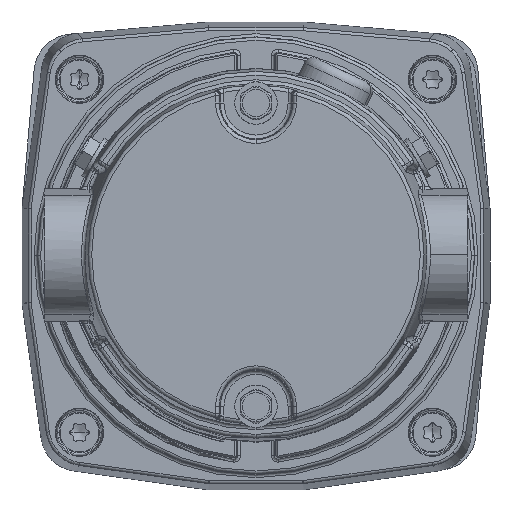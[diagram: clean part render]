
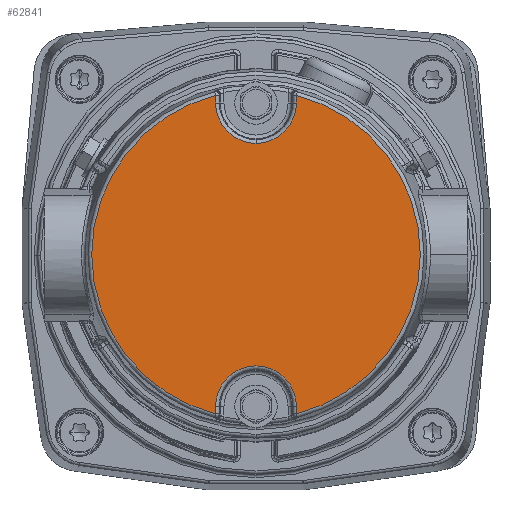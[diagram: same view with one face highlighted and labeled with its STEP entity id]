
A CAD part, top view. The second image highlights one B-rep face of the part: STEP entity #62841.
In plain terms, the highlighted planar face has unit normal (0, 0, 1).
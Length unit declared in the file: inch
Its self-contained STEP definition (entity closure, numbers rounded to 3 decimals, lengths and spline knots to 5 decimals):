
#960 = EDGE_CURVE ( 'NONE', #88735, #56618, #19225, .T. ) ;
#1129 = CARTESIAN_POINT ( 'NONE',  ( 0., 1.215, 6.257 ) ) ;
#2037 = AXIS2_PLACEMENT_3D ( 'NONE', #1129, #15676, #53978 ) ;
#2554 = DIRECTION ( 'NONE',  ( 0., 1., 0. ) ) ;
#3616 = AXIS2_PLACEMENT_3D ( 'NONE', #27208, #58142, #89183 ) ;
#8297 = VERTEX_POINT ( 'NONE', #38624 ) ;
#9191 = CARTESIAN_POINT ( 'NONE',  ( 0.32347, 0., 6.257 ) ) ;
#9256 = LINE ( 'NONE', #77105, #18909 ) ;
#10621 = ORIENTED_EDGE ( 'NONE', *, *, #960, .T. ) ;
#10993 = VERTEX_POINT ( 'NONE', #73660 ) ;
#11860 = EDGE_LOOP ( 'NONE', ( #57950, #24682, #60708, #31945, #13223, #82574, #44272, #39037, #10621 ) ) ;
#12850 = AXIS2_PLACEMENT_3D ( 'NONE', #38473, #47145, #85339 ) ;
#13223 = ORIENTED_EDGE ( 'NONE', *, *, #66605, .T. ) ;
#15217 = VERTEX_POINT ( 'NONE', #37739 ) ;
#15676 = DIRECTION ( 'NONE',  ( 0., 0., -1. ) ) ;
#16682 = VERTEX_POINT ( 'NONE', #35631 ) ;
#18909 = VECTOR ( 'NONE', #81452, 39.37008 ) ;
#19225 = CIRCLE ( 'NONE', #86895, 0.32347 ) ;
#21397 = AXIS2_PLACEMENT_3D ( 'NONE', #30420, #44538, #68517 ) ;
#24682 = ORIENTED_EDGE ( 'NONE', *, *, #62156, .T. ) ;
#26455 = LINE ( 'NONE', #69887, #62592 ) ;
#26817 = CARTESIAN_POINT ( 'NONE',  ( 0.32347, -1.215, 6.257 ) ) ;
#27208 = CARTESIAN_POINT ( 'NONE',  ( 0., 0., 6.257 ) ) ;
#28104 = VERTEX_POINT ( 'NONE', #36813 ) ;
#29383 = EDGE_CURVE ( 'NONE', #51347, #88735, #64527, .T. ) ;
#30420 = CARTESIAN_POINT ( 'NONE',  ( 0., 0., 6.257 ) ) ;
#31945 = ORIENTED_EDGE ( 'NONE', *, *, #56664, .T. ) ;
#32888 = DIRECTION ( 'NONE',  ( 0., -1., 0. ) ) ;
#35631 = CARTESIAN_POINT ( 'NONE',  ( 0.32347, 1.27617, 6.257 ) ) ;
#36813 = CARTESIAN_POINT ( 'NONE',  ( 0., 0.89153, 6.257 ) ) ;
#37566 = EDGE_CURVE ( 'NONE', #56618, #8297, #97321, .T. ) ;
#37739 = CARTESIAN_POINT ( 'NONE',  ( 0.32347, 1.215, 6.257 ) ) ;
#38473 = CARTESIAN_POINT ( 'NONE',  ( -1.345, 0., 6.257 ) ) ;
#38624 = CARTESIAN_POINT ( 'NONE',  ( 0.32347, -1.27617, 6.257 ) ) ;
#39037 = ORIENTED_EDGE ( 'NONE', *, *, #29383, .T. ) ;
#41264 = CARTESIAN_POINT ( 'NONE',  ( 0., 1.215, 6.257 ) ) ;
#41517 = DIRECTION ( 'NONE',  ( 0., -1., 0. ) ) ;
#43356 = CARTESIAN_POINT ( 'NONE',  ( -0.32347, -1.215, 6.257 ) ) ;
#44272 = ORIENTED_EDGE ( 'NONE', *, *, #51339, .T. ) ;
#44538 = DIRECTION ( 'NONE',  ( 0., 0., 1. ) ) ;
#45964 = CARTESIAN_POINT ( 'NONE',  ( -0.32347, 1.27617, 6.257 ) ) ;
#47145 = DIRECTION ( 'NONE',  ( 0., 0., -1. ) ) ;
#47619 = CIRCLE ( 'NONE', #3616, 1.31653 ) ;
#51339 = EDGE_CURVE ( 'NONE', #72794, #51347, #94477, .T. ) ;
#51347 = VERTEX_POINT ( 'NONE', #84370 ) ;
#53978 = DIRECTION ( 'NONE',  ( 0., -1., 0. ) ) ;
#54230 = CIRCLE ( 'NONE', #2037, 0.32347 ) ;
#56618 = VERTEX_POINT ( 'NONE', #26817 ) ;
#56664 = EDGE_CURVE ( 'NONE', #15217, #28104, #62422, .T. ) ;
#56906 = DIRECTION ( 'NONE',  ( 0., -1., 0. ) ) ;
#57950 = ORIENTED_EDGE ( 'NONE', *, *, #37566, .T. ) ;
#58142 = DIRECTION ( 'NONE',  ( 0., 0., 1. ) ) ;
#58744 = EDGE_CURVE ( 'NONE', #16682, #15217, #26455, .T. ) ;
#60708 = ORIENTED_EDGE ( 'NONE', *, *, #58744, .T. ) ;
#61134 = EDGE_CURVE ( 'NONE', #10993, #72794, #9256, .T. ) ;
#61157 = VECTOR ( 'NONE', #56906, 39.37008 ) ;
#62156 = EDGE_CURVE ( 'NONE', #8297, #16682, #47619, .T. ) ;
#62422 = CIRCLE ( 'NONE', #81391, 0.32347 ) ;
#62592 = VECTOR ( 'NONE', #87381, 39.37008 ) ;
#62841 = ADVANCED_FACE ( 'NONE', ( #83793 ), #68807, .F. ) ;
#64527 = LINE ( 'NONE', #86777, #76660 ) ;
#66605 = EDGE_CURVE ( 'NONE', #28104, #10993, #54230, .T. ) ;
#68517 = DIRECTION ( 'NONE',  ( 0., -1., 0. ) ) ;
#68807 = PLANE ( 'NONE',  #12850 ) ;
#69887 = CARTESIAN_POINT ( 'NONE',  ( 0.32347, 0., 6.257 ) ) ;
#72794 = VERTEX_POINT ( 'NONE', #45964 ) ;
#73660 = CARTESIAN_POINT ( 'NONE',  ( -0.32347, 1.215, 6.257 ) ) ;
#76660 = VECTOR ( 'NONE', #2554, 39.37008 ) ;
#77105 = CARTESIAN_POINT ( 'NONE',  ( -0.32347, 0., 6.257 ) ) ;
#81294 = CARTESIAN_POINT ( 'NONE',  ( 0., -1.215, 6.257 ) ) ;
#81391 = AXIS2_PLACEMENT_3D ( 'NONE', #41264, #95216, #32888 ) ;
#81452 = DIRECTION ( 'NONE',  ( 0., 1., 0. ) ) ;
#82574 = ORIENTED_EDGE ( 'NONE', *, *, #61134, .T. ) ;
#83793 = FACE_OUTER_BOUND ( 'NONE', #11860, .T. ) ;
#84370 = CARTESIAN_POINT ( 'NONE',  ( -0.32347, -1.27617, 6.257 ) ) ;
#85339 = DIRECTION ( 'NONE',  ( 0., -1., 0. ) ) ;
#86777 = CARTESIAN_POINT ( 'NONE',  ( -0.32347, 0., 6.257 ) ) ;
#86895 = AXIS2_PLACEMENT_3D ( 'NONE', #81294, #87722, #41517 ) ;
#87381 = DIRECTION ( 'NONE',  ( 0., -1., 0. ) ) ;
#87722 = DIRECTION ( 'NONE',  ( 0., 0., -1. ) ) ;
#88735 = VERTEX_POINT ( 'NONE', #43356 ) ;
#89183 = DIRECTION ( 'NONE',  ( 0., -1., 0. ) ) ;
#94477 = CIRCLE ( 'NONE', #21397, 1.31653 ) ;
#95216 = DIRECTION ( 'NONE',  ( 0., 0., -1. ) ) ;
#97321 = LINE ( 'NONE', #9191, #61157 ) ;
